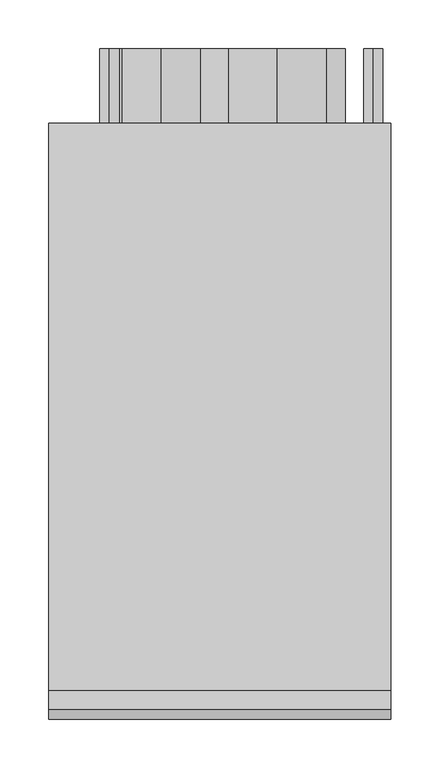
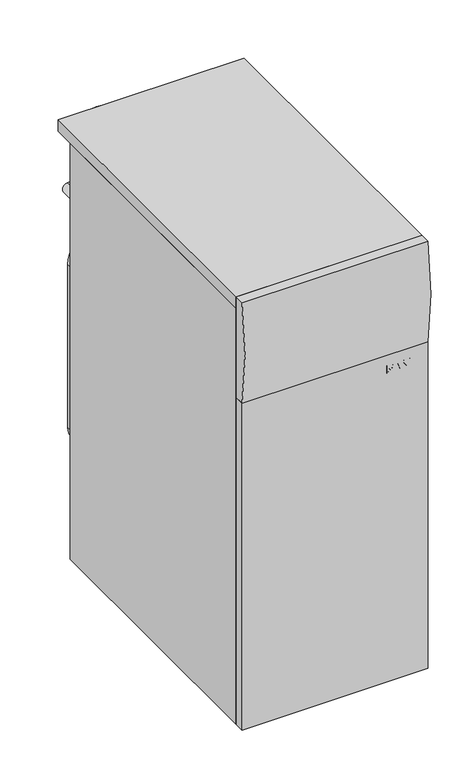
"""IFC4 building model written with IfcOpenShell, lengths in millimetres: proxy geometry, BAXI_ГазовыйКотел_Slim-Fi : BAXI_Газовый котел_Slim_1.300_Fi."""

import ifcopenshell
import ifcopenshell.guid

model = None  # the IFC model being written
_history = None  # IfcOwnerHistory: only IFC2X3 demands one
_inside = {}  # id of a spatial element -> (the spatial element, [elements in it])
_under = {}  # id of a project, library or spatial element -> (it, [spatial elements below it])
_declared = {}  # id of a project -> (the project, [libraries it declares])
_typed = {}  # id of a type object -> (the type object, [elements of that type])
_made_of = {}  # id of a material, layer set ... -> (it, [elements and type objects made of it])


def new_model(schema):
    """Start an empty IFC model of exactly this schema.

    Asked for "IFC4X3", IfcOpenShell would pick the latest addendum, in which some entities
    have other attributes; the version numbers below select the first issue.
    IFC2X3 requires an IfcOwnerHistory on every rooted entity: one is made here for all.
    """
    global model, _history
    if schema == "IFC4X3":
        model = ifcopenshell.file(schema_version=(4, 3, 0, 0))
    else:
        model = ifcopenshell.file(schema=schema)
    _inside.clear()
    _under.clear()
    _declared.clear()
    _typed.clear()
    _made_of.clear()
    _history = None
    if model.schema == "IFC2X3":
        org = make("IfcOrganization", Name="unknown")
        user = make(
            "IfcPersonAndOrganization",
            ThePerson=make("IfcPerson", FamilyName="unknown"),
            TheOrganization=org,
        )
        app = make(
            "IfcApplication",
            ApplicationDeveloper=org,
            Version="unknown",
            ApplicationFullName="unknown",
            ApplicationIdentifier="unknown",
        )
        _history = make(
            "IfcOwnerHistory",
            OwningUser=user,
            OwningApplication=app,
            ChangeAction="ADDED",
            CreationDate=0,
        )
    return model


def make(cls, **values):
    """One entity of the class cls with the attributes given. An attribute that is None is left unset."""
    return model.create_entity(
        cls, **{name: value for name, value in values.items() if value is not None}
    )


def rooted(cls, **values):
    """An entity with a GlobalId (a new one), such as an element, a storey or a relation."""
    return make(cls, GlobalId=ifcopenshell.guid.new(), OwnerHistory=_history, **values)


def si_unit(unit_type, name, prefix=None):
    """IfcSIUnit, for example si_unit("LENGTHUNIT", "METRE", prefix="MILLI")."""
    return make("IfcSIUnit", UnitType=unit_type, Prefix=prefix, Name=name)


def assignment(units):
    """IfcUnitAssignment: the units of a project."""
    return None if units is None else make("IfcUnitAssignment", Units=units)


def point(xyz):
    """IfcCartesianPoint."""
    return None if xyz is None else make("IfcCartesianPoint", Coordinates=xyz)


def direction(xyz):
    """IfcDirection."""
    return None if xyz is None else make("IfcDirection", DirectionRatios=xyz)


def frame(location, z_axis=None, x_axis=None):
    """IfcAxis2Placement3D, a coordinate frame: its origin and axes. An axis left out is left unset."""
    return make(
        "IfcAxis2Placement3D",
        Location=point(location),
        Axis=direction(z_axis),
        RefDirection=direction(x_axis),
    )


def frame_2d(location, x_axis=None):
    """IfcAxis2Placement2D, a coordinate frame in the plane: its origin and x axis."""
    return make(
        "IfcAxis2Placement2D", Location=point(location), RefDirection=direction(x_axis)
    )


def origin():
    """The frame at (0, 0, 0) with its axes left unset."""
    return frame((0.0, 0.0, 0.0))


def origin_with_axes():
    """The frame at (0, 0, 0) with the z axis (0, 0, 1) and the x axis (1, 0, 0) written out."""
    return frame((0.0, 0.0, 0.0), z_axis=(0.0, 0.0, 1.0), x_axis=(1.0, 0.0, 0.0))


def place(relative_to, where):
    """IfcLocalPlacement: puts the frame where relative to a parent placement (None: the world)."""
    return make(
        "IfcLocalPlacement", PlacementRelTo=relative_to, RelativePlacement=where
    )


def context(
    kind, dimensions, precision=None, world=None, true_north=None, identifier=None
):
    """IfcGeometricRepresentationContext, for example the 3D "Model" context."""
    return make(
        "IfcGeometricRepresentationContext",
        ContextIdentifier=identifier,
        ContextType=kind,
        CoordinateSpaceDimension=dimensions,
        Precision=precision,
        WorldCoordinateSystem=world,
        TrueNorth=true_north,
    )


def project(units=None, contexts=None):
    """IfcProject with its units and contexts."""
    return rooted(
        "IfcProject",
        Name="project",
        RepresentationContexts=contexts,
        UnitsInContext=assignment(units),
    )


def spatial(cls, under=None, at=None, **own):
    """A site, building, storey or space (cls), placed at a placement, below another one or the project."""
    s = rooted(cls, ObjectPlacement=at, **own)
    if under is not None:
        _under.setdefault(under.id(), (under, []))[1].append(s)
    return s


def polyline(points):
    """IfcPolyline through the points."""
    return make("IfcPolyline", Points=[point(p) for p in points])


def circle_curve(where, radius):
    """IfcCircle in the frame where."""
    return make("IfcCircle", Position=where, Radius=radius)


def trimmed(basis, trim1, trim2, sense, master):
    """IfcTrimmedCurve: the piece of a basis curve between two trims."""
    return make(
        "IfcTrimmedCurve",
        BasisCurve=basis,
        Trim1=trim1,
        Trim2=trim2,
        SenseAgreement=sense,
        MasterRepresentation=master,
    )


def segment(curve, same_sense, transition):
    """IfcCompositeCurveSegment."""
    return make(
        "IfcCompositeCurveSegment",
        Transition=transition,
        SameSense=same_sense,
        ParentCurve=curve,
    )


def composite_curve(segments, self_intersect=None):
    """IfcCompositeCurve: segments joined end to end."""
    return make("IfcCompositeCurve", Segments=segments, SelfIntersect=self_intersect)


def outline(outer, holes=None, kind="AREA"):
    """IfcArbitraryClosedProfileDef: a profile drawn as a closed curve; with holes, ...WithVoids."""
    if holes is None:
        return make("IfcArbitraryClosedProfileDef", ProfileType=kind, OuterCurve=outer)
    return make(
        "IfcArbitraryProfileDefWithVoids",
        ProfileType=kind,
        OuterCurve=outer,
        InnerCurves=holes,
    )


def extrude(swept, where, along, depth):
    """IfcExtrudedAreaSolid: the profile swept, set in the frame where, extruded along a direction by depth."""
    return make(
        "IfcExtrudedAreaSolid",
        SweptArea=swept,
        Position=where,
        ExtrudedDirection=direction(along),
        Depth=depth,
    )


def shape(context_of_items, identifier, shape_type, items):
    """IfcShapeRepresentation: the items that make up one representation, for example the "Body"."""
    return make(
        "IfcShapeRepresentation",
        ContextOfItems=context_of_items,
        RepresentationIdentifier=identifier,
        RepresentationType=shape_type,
        Items=items,
    )


def source(mapping_origin, context_of_items, identifier, shape_type, items):
    """IfcRepresentationMap: a shape defined once, which mapped items show again and again."""
    return make(
        "IfcRepresentationMap",
        MappingOrigin=mapping_origin,
        MappedRepresentation=shape(context_of_items, identifier, shape_type, items),
    )


def transform(
    local_origin,
    x_axis=None,
    y_axis=None,
    z_axis=None,
    scale=None,
    scale2=None,
    scale3=None,
    uniform=True,
):
    """IfcCartesianTransformationOperator3D, or its non-uniform kind. x_axis, y_axis, z_axis: its Axis1, 2, 3."""
    if uniform:
        return make(
            "IfcCartesianTransformationOperator3D",
            Axis1=direction(x_axis),
            Axis2=direction(y_axis),
            LocalOrigin=point(local_origin),
            Scale=scale,
            Axis3=direction(z_axis),
        )
    return make(
        "IfcCartesianTransformationOperator3DnonUniform",
        Axis1=direction(x_axis),
        Axis2=direction(y_axis),
        LocalOrigin=point(local_origin),
        Scale=scale,
        Axis3=direction(z_axis),
        Scale2=scale2,
        Scale3=scale3,
    )


def mapped(mapping_source, mapping_target):
    """IfcMappedItem: shows the shape of a source again, moved by a transform."""
    return make(
        "IfcMappedItem", MappingSource=mapping_source, MappingTarget=mapping_target
    )


def made_of(thing, what):
    """Note that an element or type object is made of a material, layer set ...; save() writes the relation."""
    if what is not None:
        _made_of.setdefault(what.id(), (what, []))[1].append(thing)
    return thing


def element(
    cls,
    number,
    at=None,
    inside=None,
    cuts=None,
    type_object=None,
    material=None,
    context=None,
    identifier="Body",
    shape_type=None,
    held_by="IfcProductDefinitionShape",
    body=None,
    shapes=None,
    **own,
):
    """One element of the class cls, such as IfcWall. Its Tag is "e" and its number.

    at: its placement. inside: the storey or other place that contains it. cuts: it is an
    opening in that element (IfcRelVoidsElement). A single representation is given by context,
    identifier, shape_type and body (its items); several are given by shapes. held_by: the class
    of the entity that holds the representations. save() writes the other relations.
    """
    e = rooted(cls, Tag="e%d" % number, ObjectPlacement=at, **own)
    if body is not None:
        shapes = [shape(context, identifier, shape_type, body)]
    if shapes is not None:
        e.Representation = make(held_by, Representations=shapes)
    if inside is not None:
        _inside.setdefault(inside.id(), (inside, []))[1].append(e)
    if cuts is not None:
        rooted(
            "IfcRelVoidsElement", RelatingBuildingElement=cuts, RelatedOpeningElement=e
        )
    if type_object is not None:
        _typed.setdefault(type_object.id(), (type_object, []))[1].append(e)
    return made_of(e, material)


def aggregate(whole, parts):
    """IfcRelAggregates: a whole, such as a stair, and the parts it consists of."""
    return rooted("IfcRelAggregates", RelatingObject=whole, RelatedObjects=parts)


def save(model, path):
    """Write the relations noted so far, then the file.

    IfcRelAggregates (storeys below a building ...), IfcRelContainedInSpatialStructure (elements
    in a storey), IfcRelDefinesByType, IfcRelAssociatesMaterial and IfcRelDeclares: one each for
    every whole, place, type object, material and project.
    """
    for whole, parts in _under.values():
        aggregate(whole, parts)
    for where, things in _inside.values():
        rooted(
            "IfcRelContainedInSpatialStructure",
            RelatedElements=things,
            RelatingStructure=where,
        )
    for kind, things in _typed.values():
        rooted("IfcRelDefinesByType", RelatedObjects=things, RelatingType=kind)
    for what, things in _made_of.values():
        rooted("IfcRelAssociatesMaterial", RelatedObjects=things, RelatingMaterial=what)
    for by, libraries in _declared.values():
        rooted("IfcRelDeclares", RelatingContext=by, RelatedDefinitions=libraries)
    model.write(path)


def mechanical_equipment_0fdd0bc7(model_context):
    return source(origin(), model_context, "Body", "SweptSolid", [
        extrude(outline(composite_curve([segment(trimmed(circle_curve(frame_2d((494.1898447, -59.2978254)), 53.816472), [point((548.0063167, -59.2978254))], [point((494.1898447, -113.1142973))], False, "CARTESIAN"), True, "CONTINUOUS"), segment(polyline([(494.1898447, -113.1142973), (170.9898243, -113.1142973)]), True, "CONTINUOUS"), segment(trimmed(circle_curve(frame_2d((170.9898243, -73.697982)), 39.4163154), [point((170.9898243, -113.1142973))], [point((131.573509, -73.697982))], False, "CARTESIAN"), True, "CONTINUOUS"), segment(polyline([(131.573509, -73.697982), (131.573509, 86.2223968)]), True, "CONTINUOUS"), segment(trimmed(circle_curve(frame_2d((173.6414229, 86.2223968)), 42.0679139), [point((131.573509, 86.2223968))], [point((173.6414229, 128.2903108))], False, "CARTESIAN"), True, "CONTINUOUS"), segment(polyline([(173.6414229, 128.2903108), (495.9014097, 128.2903108)]), True, "CONTINUOUS"), segment(trimmed(circle_curve(frame_2d((495.9014097, 76.1854038)), 52.104907), [point((495.9014097, 128.2903108))], [point((548.0063167, 76.1854038))], False, "CARTESIAN"), True, "CONTINUOUS"), segment(polyline([(548.0063167, 76.1854038), (548.0063167, -59.2978254)]), True, "CONTINUOUS")], self_intersect=False)), frame((0.0, -115.0, 0.0), z_axis=(0.0, 1.0, 0.0), x_axis=(0.0, 0.0, 1.0)), (0.0, 0.0, 1.0), 115.0),
        extrude(outline(polyline([(175.0, -76.0), (175.0, -656.5), (-175.0, -656.5), (-175.0, -76.0), (175.0, -76.0)])), frame((0.0, 0.0, 827.0), z_axis=(0.0, 0.0, 1.0), x_axis=(1.0, 0.0, 0.0)), (0.0, 0.0, 1.0), 23.0),
        extrude(outline(composite_curve([segment(trimmed(circle_curve(frame_2d((731.0, 59.0)), 50.0), [point((681.0, 59.0))], [point((781.0, 59.0))], False, "CARTESIAN"), True, "CONTINUOUS"), segment(trimmed(circle_curve(frame_2d((731.0, 59.0)), 50.0), [point((781.0, 59.0))], [point((681.0, 59.0))], False, "CARTESIAN"), True, "CONTINUOUS")], self_intersect=False)), frame((0.0, -115.0, 0.0), z_axis=(0.0, 1.0, 0.0), x_axis=(0.0, 0.0, 1.0)), (0.0, 0.0, 1.0), 115.0),
        extrude(outline(composite_curve([segment(trimmed(circle_curve(frame_2d((749.0, -60.0)), 40.0), [point((709.0, -60.0))], [point((789.0, -60.0))], False, "CARTESIAN"), True, "CONTINUOUS"), segment(trimmed(circle_curve(frame_2d((749.0, -60.0)), 40.0), [point((789.0, -60.0))], [point((709.0, -60.0))], False, "CARTESIAN"), True, "CONTINUOUS")], self_intersect=False)), frame((0.0, -115.0, 0.0), z_axis=(0.0, 1.0, 0.0), x_axis=(0.0, 0.0, 1.0)), (0.0, 0.0, 1.0), 115.0),
        extrude(outline(composite_curve([segment(polyline([(-656.5, 850.0), (-656.5, 650.0), (-676.0, 650.0)]), True, "CONTINUOUS"), segment(trimmed(circle_curve(frame_2d((-176.6205689, 749.7321727)), 509.2409277), [point((-676.0, 650.0))], [point((-675.8927244, 850.0))], False, "CARTESIAN"), True, "CONTINUOUS"), segment(polyline([(-675.8927244, 850.0), (-656.5, 850.0)]), True, "CONTINUOUS")], self_intersect=False)), frame((-175.0, 0.0, 0.0), z_axis=(1.0, 0.0, 0.0), x_axis=(0.0, 1.0, 0.0)), (0.0, 0.0, 1.0), 350.0),
        extrude(outline(polyline([(175.0, -656.5), (175.0, -676.0), (-175.0, -676.0), (-175.0, -656.5), (175.0, -656.5)])), origin_with_axes(), (0.0, 0.0, 1.0), 650.0),
        extrude(outline(composite_curve([segment(trimmed(circle_curve(frame_2d((453.0, 157.0)), 7.5), [point((445.5, 157.0))], [point((460.5, 157.0))], False, "CARTESIAN"), True, "CONTINUOUS"), segment(trimmed(circle_curve(frame_2d((453.0, 157.0)), 7.5), [point((460.5, 157.0))], [point((445.5, 157.0))], False, "CARTESIAN"), True, "CONTINUOUS")], self_intersect=False)), frame((0.0, -115.0, 0.0), z_axis=(0.0, 1.0, 0.0), x_axis=(0.0, 0.0, 1.0)), (0.0, 0.0, 1.0), 115.0),
        extrude(outline(composite_curve([segment(trimmed(circle_curve(frame_2d((522.0, 157.0)), 10.0), [point((512.0, 157.0))], [point((532.0, 157.0))], False, "CARTESIAN"), True, "CONTINUOUS"), segment(trimmed(circle_curve(frame_2d((522.0, 157.0)), 10.0), [point((532.0, 157.0))], [point((512.0, 157.0))], False, "CARTESIAN"), True, "CONTINUOUS")], self_intersect=False)), frame((0.0, -115.0, 0.0), z_axis=(0.0, 1.0, 0.0), x_axis=(0.0, 0.0, 1.0)), (0.0, 0.0, 1.0), 115.0),
        extrude(outline(composite_curve([segment(trimmed(circle_curve(frame_2d((647.0, -113.0)), 10.0), [point((637.0, -113.0))], [point((657.0, -113.0))], False, "CARTESIAN"), True, "CONTINUOUS"), segment(trimmed(circle_curve(frame_2d((647.0, -113.0)), 10.0), [point((657.0, -113.0))], [point((637.0, -113.0))], False, "CARTESIAN"), True, "CONTINUOUS")], self_intersect=False)), frame((0.0, -115.0, 0.0), z_axis=(0.0, 1.0, 0.0), x_axis=(0.0, 0.0, 1.0)), (0.0, 0.0, 1.0), 115.0),
        extrude(outline(composite_curve([segment(trimmed(circle_curve(frame_2d((72.0, 97.0)), 10.0), [point((62.0, 97.0))], [point((82.0, 97.0))], False, "CARTESIAN"), True, "CONTINUOUS"), segment(trimmed(circle_curve(frame_2d((72.0, 97.0)), 10.0), [point((82.0, 97.0))], [point((62.0, 97.0))], False, "CARTESIAN"), True, "CONTINUOUS")], self_intersect=False)), frame((0.0, -115.0, 0.0), z_axis=(0.0, 1.0, 0.0), x_axis=(0.0, 0.0, 1.0)), (0.0, 0.0, 1.0), 115.0),
        extrude(outline(polyline([(175.0, -115.0), (175.0, -656.5), (-175.0, -656.5), (-175.0, -115.0), (175.0, -115.0)])), origin_with_axes(), (0.0, 0.0, 1.0), 827.0),
        extrude(outline(polyline([(629.3832395, 97.0653673), (614.0793485, 97.0653673), (614.0793485, 102.295715), (614.1818299, 106.0381844), (614.9048932, 108.1200753), (616.4724793, 109.4523337), (618.4936405, 109.9400693), (620.7899832, 109.2606555), (622.1715845, 107.3173042), (623.5266165, 108.8791969), (625.5079238, 109.4542315), (627.3089398, 108.9721893), (628.5956508, 107.7670838), (629.2314152, 106.1273812), (629.3832395, 103.3470984), (629.3832395, 97.0653673)]), holes=[polyline([(626.7111315, 99.9803942), (626.7111315, 101.9313367), (623.3596098, 104.6717655), (623.3102669, 102.2046204), (623.3102669, 99.9803942), (626.7111315, 99.9803942)]), polyline([(620.6381589, 99.9803942), (620.6381589, 102.6714802), (616.842551, 105.3473837), (616.7514564, 103.0624278), (616.7514564, 99.9803942), (620.6381589, 99.9803942)])]), frame((0.0, -676.0, 0.0), z_axis=(0.0, 1.0, 0.0), x_axis=(0.0, 0.0, 1.0)), (0.0, 0.0, 1.0), 5.0),
        extrude(outline(polyline([(614.0793485, 125.2439603), (629.3832395, 119.603687), (629.3832395, 116.4988797), (614.0793485, 110.9117449), (614.0793485, 114.0165522), (617.4802132, 115.2007818), (617.4802132, 120.9814926), (614.0793485, 122.1809047), (614.0793485, 125.2439603)]), holes=[polyline([(620.1523211, 120.0477731), (620.1523211, 116.1345014), (625.7394559, 118.0778526), (620.1523211, 120.0477731)])]), frame((0.0, -676.0, 0.0), z_axis=(0.0, 1.0, 0.0), x_axis=(0.0, 0.0, 1.0)), (0.0, 0.0, 1.0), 5.0),
        extrude(outline(polyline([(614.0793485, 125.3654197), (614.0793485, 128.7738756), (619.4842941, 132.2886085), (614.0793485, 135.8033414), (614.0793485, 139.2117973), (622.1032636, 133.9928365), (629.3832395, 138.7259595), (629.3832395, 135.3175036), (624.7260286, 132.2886085), (629.3832395, 129.2597134), (629.3832395, 125.8512576), (622.1032636, 130.5843806), (614.0793485, 125.3654197)])), frame((0.0, -676.0, 0.0), z_axis=(0.0, 1.0, 0.0), x_axis=(0.0, 0.0, 1.0)), (0.0, 0.0, 1.0), 5.0),
        extrude(outline(polyline([(140.7907702, -671.0), (143.7057971, -671.0), (143.7057971, -676.0), (140.7907702, -676.0), (140.7907702, -671.0)])), frame((0.0, 0.0, 614.0793485), z_axis=(0.0, 0.0, 1.0), x_axis=(1.0, 0.0, 0.0)), (0.0, 0.0, 1.0), 15.303891),
    ])


if __name__ == "__main__":
    model = new_model("IFC4")
    model_context = context("Model", 3, world=origin())
    ifc_project = project(units=[si_unit("LENGTHUNIT", "METRE", prefix="MILLI")], contexts=[model_context])
    site = spatial("IfcSite", under=ifc_project)
    building = spatial("IfcBuilding", under=site)
    placement = place(None, origin())
    mechanical_equipment_shape = mechanical_equipment_0fdd0bc7(model_context)
    element("IfcBuildingElementProxy", 1, Name="BAXI_ГазовыйКотел_Slim-Fi : BAXI_Газовый котел_Slim_1.300_Fi", ObjectType="BAXI_ГазовыйКотел_Slim-Fi : BAXI_Газовый котел_Slim_1.300_Fi", at=placement, inside=building, context=model_context, shape_type="MappedRepresentation", body=[
        mapped(mechanical_equipment_shape, transform((0.0, 0.0, 0.0), x_axis=(1.0, 0.0, 0.0), y_axis=(0.0, 1.0, 0.0), z_axis=(0.0, 0.0, 1.0))),
    ])
    save(model, "model.ifc")
